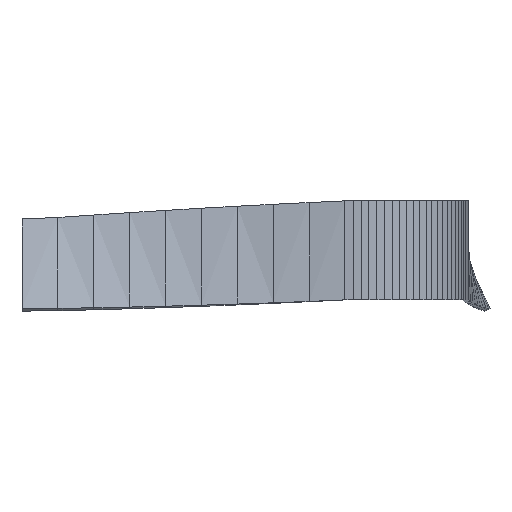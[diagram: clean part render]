
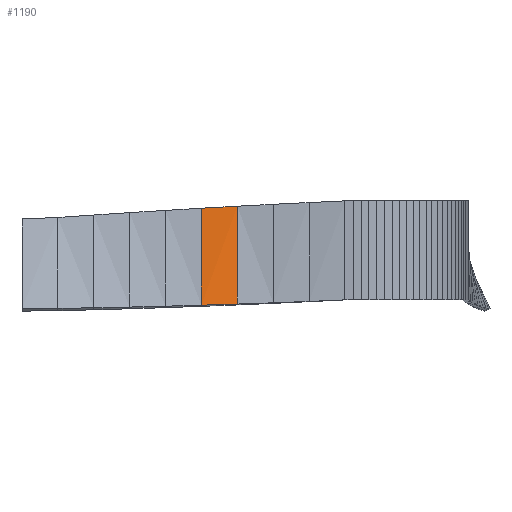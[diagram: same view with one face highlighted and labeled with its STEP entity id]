
A CAD part, front view. The second image highlights one B-rep face of the part: STEP entity #1190.
In plain terms, the highlighted free-form (B-spline) face has degree [1, 1] with [2, 2] control points.
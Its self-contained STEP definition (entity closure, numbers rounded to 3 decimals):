
#809 = B_SPLINE_SURFACE_WITH_KNOTS('',1,1,(
    (#810,#811)
    ,(#812,#813
    )),.UNSPECIFIED.,.F.,.F.,.F.,(2,2),(2,2),(0.,10.3),(0.,1.),
  .PIECEWISE_BEZIER_KNOTS.);
#810 = CARTESIAN_POINT('',(141.403,-158.156,
    12.646));
#811 = CARTESIAN_POINT('',(145.137,-157.887,
    12.75));
#812 = CARTESIAN_POINT('',(141.403,-155.563,
    22.614));
#813 = CARTESIAN_POINT('',(145.137,-155.804,
    22.837));
#984 = VERTEX_POINT('',#985);
#985 = CARTESIAN_POINT('',(145.137,-155.804,
    22.837));
#1005 = EDGE_CURVE('',#1006,#984,#1008,.T.);
#1006 = VERTEX_POINT('',#1007);
#1007 = CARTESIAN_POINT('',(145.137,-157.887,
    12.75));
#1008 = SURFACE_CURVE('',#1009,(#1013,#1020),.PCURVE_S1.);
#1009 = LINE('',#1010,#1011);
#1010 = CARTESIAN_POINT('',(145.137,-157.887,
    12.75));
#1011 = VECTOR('',#1012,1.);
#1012 = DIRECTION('',(0.,0.202,0.979));
#1013 = PCURVE('',#809,#1014);
#1014 = DEFINITIONAL_REPRESENTATION('',(#1015),#1019);
#1015 = LINE('',#1016,#1017);
#1016 = CARTESIAN_POINT('',(0.,1.));
#1017 = VECTOR('',#1018,1.);
#1018 = DIRECTION('',(1.,0.));
#1019 = ( GEOMETRIC_REPRESENTATION_CONTEXT(2) 
PARAMETRIC_REPRESENTATION_CONTEXT() REPRESENTATION_CONTEXT('2D SPACE',''
  ) );
#1020 = PCURVE('',#1021,#1026);
#1021 = B_SPLINE_SURFACE_WITH_KNOTS('',1,1,(
    (#1022,#1023)
    ,(#1024,#1025
    )),.UNSPECIFIED.,.F.,.F.,.F.,(2,2),(2,2),(0.,10.3),(0.,1.),
  .PIECEWISE_BEZIER_KNOTS.);
#1022 = CARTESIAN_POINT('',(145.137,-157.887,
    12.75));
#1023 = CARTESIAN_POINT('',(148.87,-157.622,12.868));
#1024 = CARTESIAN_POINT('',(145.137,-155.804,
    22.837));
#1025 = CARTESIAN_POINT('',(148.87,-156.055,23.048));
#1026 = DEFINITIONAL_REPRESENTATION('',(#1027),#1031);
#1027 = LINE('',#1028,#1029);
#1028 = CARTESIAN_POINT('',(0.,0.));
#1029 = VECTOR('',#1030,1.);
#1030 = DIRECTION('',(1.,0.));
#1031 = ( GEOMETRIC_REPRESENTATION_CONTEXT(2) 
PARAMETRIC_REPRESENTATION_CONTEXT() REPRESENTATION_CONTEXT('2D SPACE',''
  ) );
#1093 = B_SPLINE_SURFACE_WITH_KNOTS('',1,1,(
    (#1094,#1095)
    ,(#1096,#1097
    )),.UNSPECIFIED.,.F.,.F.,.F.,(2,2),(2,2),(0.,0.6),(0.,1.),
  .PIECEWISE_BEZIER_KNOTS.);
#1094 = CARTESIAN_POINT('',(145.137,-155.804,
    22.837));
#1095 = CARTESIAN_POINT('',(148.87,-156.055,23.048));
#1096 = CARTESIAN_POINT('',(145.137,-155.216,
    22.716));
#1097 = CARTESIAN_POINT('',(148.87,-155.462,22.957));
#1178 = B_SPLINE_SURFACE_WITH_KNOTS('',1,1,(
    (#1179,#1180)
    ,(#1181,#1182
    )),.UNSPECIFIED.,.F.,.F.,.F.,(2,2),(2,2),(0.,0.6),(0.,1.),
  .PIECEWISE_BEZIER_KNOTS.);
#1179 = CARTESIAN_POINT('',(145.137,-157.299,
    12.629));
#1180 = CARTESIAN_POINT('',(148.87,-157.029,12.777));
#1181 = CARTESIAN_POINT('',(145.137,-157.887,
    12.75));
#1182 = CARTESIAN_POINT('',(148.87,-157.622,12.868));
#1190 = ADVANCED_FACE('',(#1191),#1021,.F.);
#1191 = FACE_BOUND('',#1192,.F.);
#1192 = EDGE_LOOP('',(#1193,#1194,#1216,#1244));
#1193 = ORIENTED_EDGE('',*,*,#1005,.T.);
#1194 = ORIENTED_EDGE('',*,*,#1195,.T.);
#1195 = EDGE_CURVE('',#984,#1196,#1198,.T.);
#1196 = VERTEX_POINT('',#1197);
#1197 = CARTESIAN_POINT('',(148.87,-156.055,23.048));
#1198 = SURFACE_CURVE('',#1199,(#1202,#1209),.PCURVE_S1.);
#1199 = B_SPLINE_CURVE_WITH_KNOTS('',1,(#1200,#1201),.UNSPECIFIED.,.F.,
  .F.,(2,2),(0.,1.),.PIECEWISE_BEZIER_KNOTS.);
#1200 = CARTESIAN_POINT('',(145.137,-155.804,
    22.837));
#1201 = CARTESIAN_POINT('',(148.87,-156.055,23.048));
#1202 = PCURVE('',#1021,#1203);
#1203 = DEFINITIONAL_REPRESENTATION('',(#1204),#1208);
#1204 = LINE('',#1205,#1206);
#1205 = CARTESIAN_POINT('',(10.3,0.));
#1206 = VECTOR('',#1207,1.);
#1207 = DIRECTION('',(0.,1.));
#1208 = ( GEOMETRIC_REPRESENTATION_CONTEXT(2) 
PARAMETRIC_REPRESENTATION_CONTEXT() REPRESENTATION_CONTEXT('2D SPACE',''
  ) );
#1209 = PCURVE('',#1093,#1210);
#1210 = DEFINITIONAL_REPRESENTATION('',(#1211),#1215);
#1211 = LINE('',#1212,#1213);
#1212 = CARTESIAN_POINT('',(0.,0.));
#1213 = VECTOR('',#1214,1.);
#1214 = DIRECTION('',(0.,1.));
#1215 = ( GEOMETRIC_REPRESENTATION_CONTEXT(2) 
PARAMETRIC_REPRESENTATION_CONTEXT() REPRESENTATION_CONTEXT('2D SPACE',''
  ) );
#1216 = ORIENTED_EDGE('',*,*,#1217,.F.);
#1217 = EDGE_CURVE('',#1218,#1196,#1220,.T.);
#1218 = VERTEX_POINT('',#1219);
#1219 = CARTESIAN_POINT('',(148.87,-157.622,12.868));
#1220 = SURFACE_CURVE('',#1221,(#1225,#1232),.PCURVE_S1.);
#1221 = LINE('',#1222,#1223);
#1222 = CARTESIAN_POINT('',(148.87,-157.622,12.868));
#1223 = VECTOR('',#1224,1.);
#1224 = DIRECTION('',(0.,0.152,0.988));
#1225 = PCURVE('',#1021,#1226);
#1226 = DEFINITIONAL_REPRESENTATION('',(#1227),#1231);
#1227 = LINE('',#1228,#1229);
#1228 = CARTESIAN_POINT('',(0.,1.));
#1229 = VECTOR('',#1230,1.);
#1230 = DIRECTION('',(1.,0.));
#1231 = ( GEOMETRIC_REPRESENTATION_CONTEXT(2) 
PARAMETRIC_REPRESENTATION_CONTEXT() REPRESENTATION_CONTEXT('2D SPACE',''
  ) );
#1232 = PCURVE('',#1233,#1238);
#1233 = B_SPLINE_SURFACE_WITH_KNOTS('',1,1,(
    (#1234,#1235)
    ,(#1236,#1237
    )),.UNSPECIFIED.,.F.,.F.,.F.,(2,2),(2,2),(0.,10.3),(0.,1.),
  .PIECEWISE_BEZIER_KNOTS.);
#1234 = CARTESIAN_POINT('',(148.87,-157.622,12.868));
#1235 = CARTESIAN_POINT('',(152.603,-157.364,
    12.999));
#1236 = CARTESIAN_POINT('',(148.87,-156.055,23.048));
#1237 = CARTESIAN_POINT('',(152.603,-156.317,
    23.246));
#1238 = DEFINITIONAL_REPRESENTATION('',(#1239),#1243);
#1239 = LINE('',#1240,#1241);
#1240 = CARTESIAN_POINT('',(0.,0.));
#1241 = VECTOR('',#1242,1.);
#1242 = DIRECTION('',(1.,0.));
#1243 = ( GEOMETRIC_REPRESENTATION_CONTEXT(2) 
PARAMETRIC_REPRESENTATION_CONTEXT() REPRESENTATION_CONTEXT('2D SPACE',''
  ) );
#1244 = ORIENTED_EDGE('',*,*,#1245,.F.);
#1245 = EDGE_CURVE('',#1006,#1218,#1246,.T.);
#1246 = SURFACE_CURVE('',#1247,(#1250,#1257),.PCURVE_S1.);
#1247 = B_SPLINE_CURVE_WITH_KNOTS('',1,(#1248,#1249),.UNSPECIFIED.,.F.,
  .F.,(2,2),(0.,1.),.PIECEWISE_BEZIER_KNOTS.);
#1248 = CARTESIAN_POINT('',(145.137,-157.887,
    12.75));
#1249 = CARTESIAN_POINT('',(148.87,-157.622,12.868));
#1250 = PCURVE('',#1021,#1251);
#1251 = DEFINITIONAL_REPRESENTATION('',(#1252),#1256);
#1252 = LINE('',#1253,#1254);
#1253 = CARTESIAN_POINT('',(0.,0.));
#1254 = VECTOR('',#1255,1.);
#1255 = DIRECTION('',(0.,1.));
#1256 = ( GEOMETRIC_REPRESENTATION_CONTEXT(2) 
PARAMETRIC_REPRESENTATION_CONTEXT() REPRESENTATION_CONTEXT('2D SPACE',''
  ) );
#1257 = PCURVE('',#1178,#1258);
#1258 = DEFINITIONAL_REPRESENTATION('',(#1259),#1263);
#1259 = LINE('',#1260,#1261);
#1260 = CARTESIAN_POINT('',(0.6,0.));
#1261 = VECTOR('',#1262,1.);
#1262 = DIRECTION('',(0.,1.));
#1263 = ( GEOMETRIC_REPRESENTATION_CONTEXT(2) 
PARAMETRIC_REPRESENTATION_CONTEXT() REPRESENTATION_CONTEXT('2D SPACE',''
  ) );
